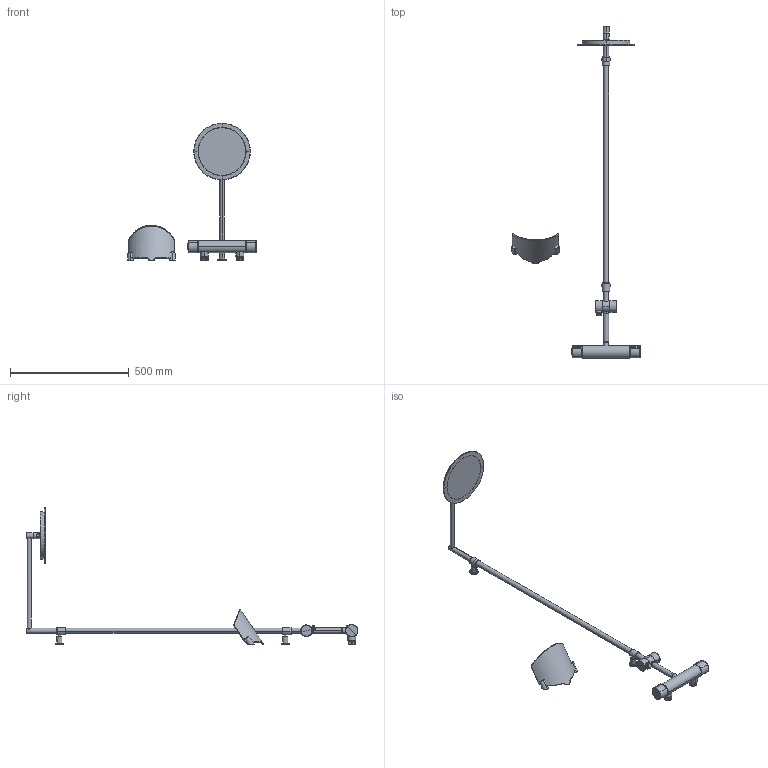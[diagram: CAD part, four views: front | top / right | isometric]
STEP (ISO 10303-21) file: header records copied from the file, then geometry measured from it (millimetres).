
FILE_DESCRIPTION (( 'STEP AP203' ), '1' );
FILE_NAME ('2891.STEP', '2018-07-11T11:16:11', ( '' ), ( '' ), 'SwSTEP 2.0', 'SolidWorks 2016', '' );
FILE_SCHEMA (( 'CONFIG_CONTROL_DESIGN' ));
Length unit declared in the file: millimetre
Products named in the file (1): 2891
Bounding box: 539.83 x 1396 x 578.15 mm (x, y, z)
Volume: 2381228.9 mm3; surface area: 417299.6 mm2
Topology: 21 solids, 22 shells, 498 faces, 1069 edges, 634 vertices
Faces by surface type: cylinder 117, bspline 107, plane 104, torus 84, cone 68, sphere 18
Entity records: 22647 total; most frequent: CARTESIAN_POINT 12599, ORIENTED_EDGE 2106, DIRECTION 2024, EDGE_CURVE 1053, AXIS2_PLACEMENT_3D 897, VERTEX_POINT 632, EDGE_LOOP 531, CIRCLE 505
